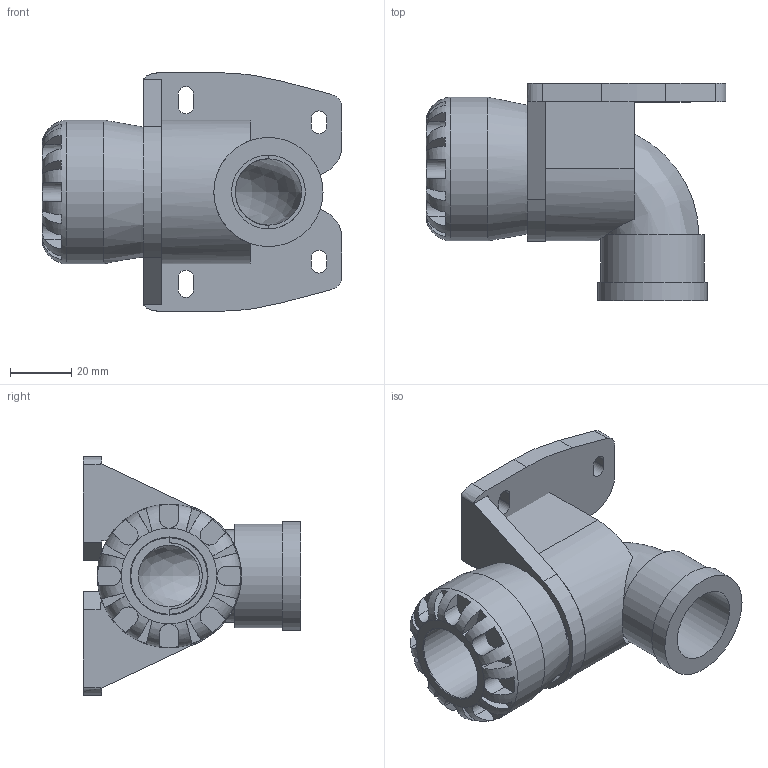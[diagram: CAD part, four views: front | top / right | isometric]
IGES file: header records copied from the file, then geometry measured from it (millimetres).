
Global section: file name: 107500025007.ipt; native system: Autodesk Inventor 2015; preprocessor: unknown; author: KIM; date: 20170122.114651; units: millimetre
Bounding box: 98 x 71 x 78 mm (x, y, z)
Volume: 117692 mm3; surface area: 43919.9 mm2
Topology: 2 solids, 2 shells, 164 faces, 441 edges, 282 vertices
Faces by surface type: plane 105, revolution 31, cylinder 15, bspline 13
Full cylindrical faces by diameter (mm): 33.764 x1, 35.693 x1, 41.36 x1, 47 x1
